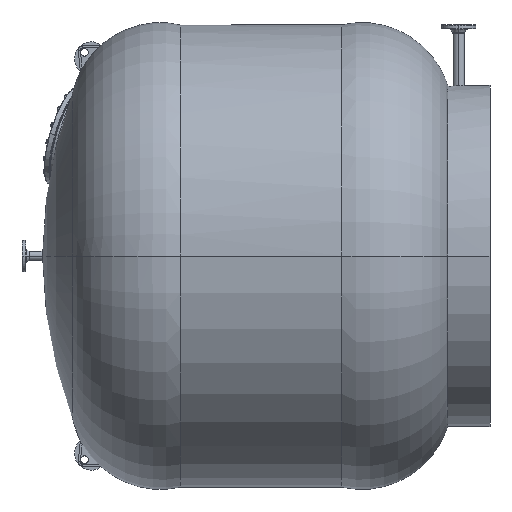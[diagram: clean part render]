
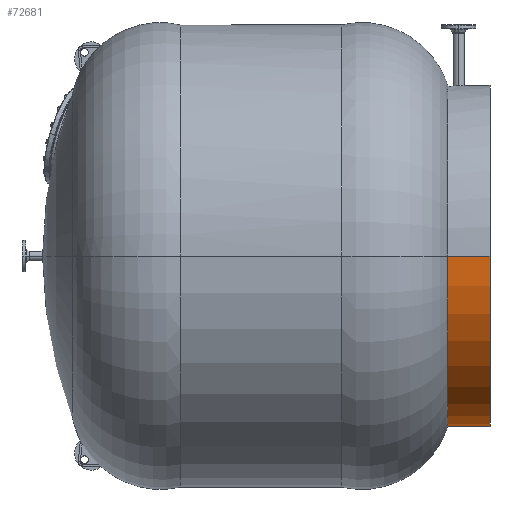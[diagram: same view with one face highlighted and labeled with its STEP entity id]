
A CAD part, left-side view. The second image highlights one B-rep face of the part: STEP entity #72681.
In plain terms, the highlighted cylindrical face has radius 820 mm (diameter 1640 mm), a partial arc.
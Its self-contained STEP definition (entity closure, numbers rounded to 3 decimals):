
#9403 = AXIS2_PLACEMENT_3D ( 'NONE', #96747, #70353, #54158 ) ;
#10897 = CARTESIAN_POINT ( 'NONE',  ( 850., 204., -850. ) ) ;
#13089 = CARTESIAN_POINT ( 'NONE',  ( 1670., 0., -850. ) ) ;
#13170 = DIRECTION ( 'NONE',  ( 1., 0., 0. ) ) ;
#19162 = CARTESIAN_POINT ( 'NONE',  ( 1670., 0., -850. ) ) ;
#22342 = DIRECTION ( 'NONE',  ( 0., 1., 0. ) ) ;
#25370 = FACE_OUTER_BOUND ( 'NONE', #99087, .T. ) ;
#32975 = EDGE_CURVE ( 'NONE', #107059, #104522, #96930, .T. ) ;
#37364 = AXIS2_PLACEMENT_3D ( 'NONE', #101241, #22342, #112695 ) ;
#54158 = DIRECTION ( 'NONE',  ( 1., 0., 0. ) ) ;
#55802 = DIRECTION ( 'NONE',  ( 0., 1., 0. ) ) ;
#58639 = LINE ( 'NONE', #78193, #70414 ) ;
#59728 = ORIENTED_EDGE ( 'NONE', *, *, #32975, .F. ) ;
#60270 = VECTOR ( 'NONE', #106712, 1000. ) ;
#62767 = ORIENTED_EDGE ( 'NONE', *, *, #104209, .T. ) ;
#70353 = DIRECTION ( 'NONE',  ( 0., -1., 0. ) ) ;
#70414 = VECTOR ( 'NONE', #111537, 1000. ) ;
#72681 = ADVANCED_FACE ( 'NONE', ( #25370 ), #76099, .T. ) ;
#73498 = CARTESIAN_POINT ( 'NONE',  ( 1670., 204., -850. ) ) ;
#74786 = ORIENTED_EDGE ( 'NONE', *, *, #101047, .F. ) ;
#76099 = CYLINDRICAL_SURFACE ( 'NONE', #9403, 820. ) ;
#78193 = CARTESIAN_POINT ( 'NONE',  ( 30., 0., -850. ) ) ;
#78576 = CARTESIAN_POINT ( 'NONE',  ( 30., 204., -850. ) ) ;
#78706 = EDGE_CURVE ( 'NONE', #107059, #92327, #94416, .T. ) ;
#83448 = ORIENTED_EDGE ( 'NONE', *, *, #78706, .T. ) ;
#86219 = AXIS2_PLACEMENT_3D ( 'NONE', #10897, #55802, #13170 ) ;
#92327 = VERTEX_POINT ( 'NONE', #108701 ) ;
#94416 = CIRCLE ( 'NONE', #37364, 820. ) ;
#96747 = CARTESIAN_POINT ( 'NONE',  ( 850., 0., -850. ) ) ;
#96930 = LINE ( 'NONE', #19162, #60270 ) ;
#99087 = EDGE_LOOP ( 'NONE', ( #83448, #62767, #74786, #59728 ) ) ;
#101047 = EDGE_CURVE ( 'NONE', #104522, #108866, #110054, .T. ) ;
#101241 = CARTESIAN_POINT ( 'NONE',  ( 850., 0., -850. ) ) ;
#104209 = EDGE_CURVE ( 'NONE', #92327, #108866, #58639, .T. ) ;
#104522 = VERTEX_POINT ( 'NONE', #73498 ) ;
#106712 = DIRECTION ( 'NONE',  ( 0., 1., 0. ) ) ;
#107059 = VERTEX_POINT ( 'NONE', #13089 ) ;
#108701 = CARTESIAN_POINT ( 'NONE',  ( 30., 0., -850. ) ) ;
#108866 = VERTEX_POINT ( 'NONE', #78576 ) ;
#110054 = CIRCLE ( 'NONE', #86219, 820. ) ;
#111537 = DIRECTION ( 'NONE',  ( 0., 1., 0. ) ) ;
#112695 = DIRECTION ( 'NONE',  ( 1., 0., 0. ) ) ;
